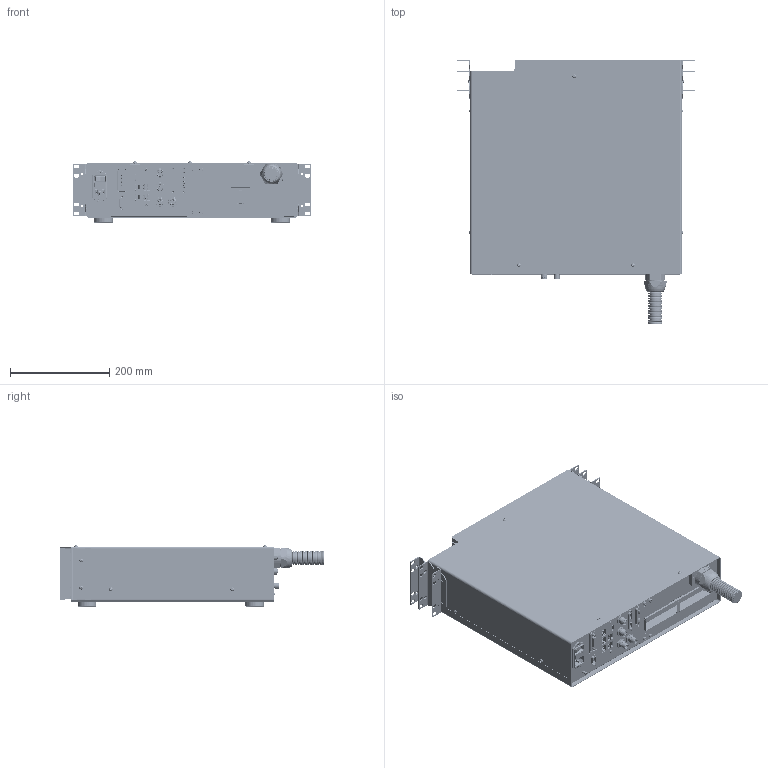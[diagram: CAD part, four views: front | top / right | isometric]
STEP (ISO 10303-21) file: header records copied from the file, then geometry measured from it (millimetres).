
FILE_DESCRIPTION(/* description */ (''),/* implementation_level */ '2;1');
FILE_NAME(/* name */ 'DSD-1270_STEP-20260224.stp',/* time_stamp */ '2026-02-24T12:03:57+01:00',/* author */ (''),/* organization */ (''),/* preprocessor_version */ 'ST-DEVELOPER v20',/* originating_system */ 'SIEMENS PLM Software NX2412.8701',/* authorisation */ '');
FILE_SCHEMA (('AUTOMOTIVE_DESIGN { 1 0 10303 214 3 1 1 1 }'));
Products named in the file (1): AS008843_02-for step 20260224.x_t_objects
Bounding box: 480 x 534.4 x 123.2 mm (x, y, z)
Volume: 19921416.9 mm3; surface area: 831912.9 mm2
Topology: 7 solids, 46 shells, 7387 faces, 18921 edges, 12300 vertices
Faces by surface type: plane 4449, cylinder 2094, cone 314, torus 184, bspline 158, extrusion 127, sphere 61
Full cylindrical faces by diameter (mm): 0.12 x1, 0.156 x1, 0.8 x16, 0.9 x8, 1 x41, 1.1 x4, 1.2 x1, 1.4 x8, 1.6 x4, 2.5 x2, 2.6 x6, 3 x416, 3.838 x7, 4 x11, 4.2 x12, 4.5 x24, 4.7 x1, 4.9 x2, 5 x2, 5.41 x2, 5.5 x6, 5.7 x2, 6.5 x2, 7 x9, 8.2 x2, 8.3 x2, 8.74 x4, 10 x5, 10.4 x4, 10.5 x2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
Entity records: 267397 total; most frequent: CARTESIAN_POINT 49331, DIRECTION 35154, ORIENTED_EDGE 34722, EDGE_CURVE 17361, VECTOR 11834, VERTEX_POINT 11747, LINE 11707, AXIS2_PLACEMENT_3D 11660
